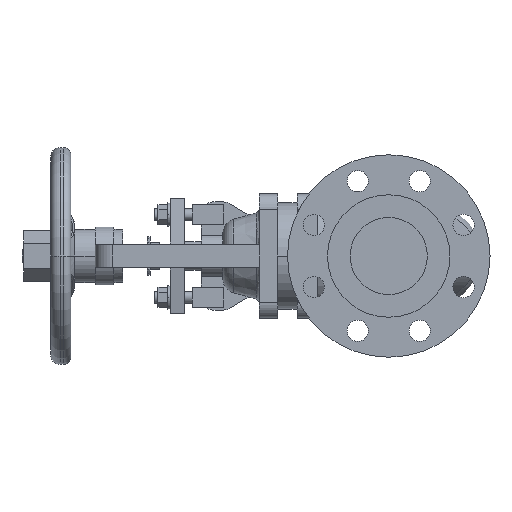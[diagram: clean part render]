
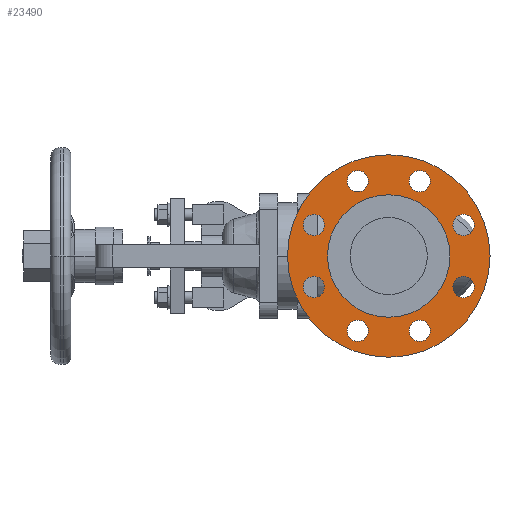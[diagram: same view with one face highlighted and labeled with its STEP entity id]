
A CAD part, left-side view. The second image highlights one B-rep face of the part: STEP entity #23490.
In plain terms, the highlighted planar face has unit normal (-1, 0, 0).
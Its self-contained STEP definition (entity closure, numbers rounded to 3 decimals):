
#4620=CARTESIAN_POINT('',(1.6,0.,105.));
#4630=VERTEX_POINT('',#4620);
#4790=CARTESIAN_POINT('',(1.6,0.,-105.));
#4800=VERTEX_POINT('',#4790);
#4830=CARTESIAN_POINT('',(1.6,0.,0.));
#4840=DIRECTION('',(1.,0.,0.));
#4850=DIRECTION('',(0.,0.,-1.));
#4860=AXIS2_PLACEMENT_3D('',#4830,#4840,#4850);
#4870=CIRCLE('',#4860,105.);
#4880=EDGE_CURVE('',#4630,#4800,#4870,.T.);
#5110=CARTESIAN_POINT('',(1.6,32.145,
-88.606));
#5120=VERTEX_POINT('',#5110);
#5280=CARTESIAN_POINT('',(1.6,32.145,
-66.606));
#5290=VERTEX_POINT('',#5280);
#5320=CARTESIAN_POINT('',(1.6,32.145,
-77.606));
#5330=DIRECTION('',(-1.,0.,0.));
#5340=DIRECTION('',(0.,0.,-1.));
#5350=AXIS2_PLACEMENT_3D('',#5320,#5330,#5340);
#5360=CIRCLE('',#5350,11.);
#5370=EDGE_CURVE('',#5120,#5290,#5360,.T.);
#5600=CARTESIAN_POINT('',(1.6,-32.145,
-88.606));
#5610=VERTEX_POINT('',#5600);
#5770=CARTESIAN_POINT('',(1.6,-32.145,
-66.606));
#5780=VERTEX_POINT('',#5770);
#5810=CARTESIAN_POINT('',(1.6,-32.145,
-77.606));
#5820=DIRECTION('',(-1.,0.,0.));
#5830=DIRECTION('',(0.,0.,-1.));
#5840=AXIS2_PLACEMENT_3D('',#5810,#5820,#5830);
#5850=CIRCLE('',#5840,11.);
#5860=EDGE_CURVE('',#5610,#5780,#5850,.T.);
#6090=CARTESIAN_POINT('',(1.6,77.606,
-43.145));
#6100=VERTEX_POINT('',#6090);
#6130=CARTESIAN_POINT('',(1.6,77.606,
-32.145));
#6140=DIRECTION('',(-1.,0.,0.));
#6150=DIRECTION('',(0.,0.,-1.));
#6160=AXIS2_PLACEMENT_3D('',#6130,#6140,#6150);
#6170=CIRCLE('',#6160,11.);
#6180=CARTESIAN_POINT('',(1.6,77.606,
-21.145));
#6190=VERTEX_POINT('',#6180);
#6200=EDGE_CURVE('',#6190,#6100,#6170,.T.);
#6580=CARTESIAN_POINT('',(1.6,-77.606,
-43.145));
#6590=VERTEX_POINT('',#6580);
#6750=CARTESIAN_POINT('',(1.6,-77.606,
-21.145));
#6760=VERTEX_POINT('',#6750);
#6790=CARTESIAN_POINT('',(1.6,-77.606,
-32.145));
#6800=DIRECTION('',(-1.,0.,0.));
#6810=DIRECTION('',(0.,0.,-1.));
#6820=AXIS2_PLACEMENT_3D('',#6790,#6800,#6810);
#6830=CIRCLE('',#6820,11.);
#6840=EDGE_CURVE('',#6590,#6760,#6830,.T.);
#7070=CARTESIAN_POINT('',(1.6,77.606,
21.145));
#7080=VERTEX_POINT('',#7070);
#7240=CARTESIAN_POINT('',(1.6,77.606,
43.145));
#7250=VERTEX_POINT('',#7240);
#7280=CARTESIAN_POINT('',(1.6,77.606,
32.145));
#7290=DIRECTION('',(-1.,0.,0.));
#7300=DIRECTION('',(0.,0.,-1.));
#7310=AXIS2_PLACEMENT_3D('',#7280,#7290,#7300);
#7320=CIRCLE('',#7310,11.);
#7330=EDGE_CURVE('',#7080,#7250,#7320,.T.);
#7560=CARTESIAN_POINT('',(1.6,-77.606,
21.145));
#7570=VERTEX_POINT('',#7560);
#7730=CARTESIAN_POINT('',(1.6,-77.606,
43.145));
#7740=VERTEX_POINT('',#7730);
#7770=CARTESIAN_POINT('',(1.6,-77.606,
32.145));
#7780=DIRECTION('',(-1.,0.,0.));
#7790=DIRECTION('',(0.,0.,-1.));
#7800=AXIS2_PLACEMENT_3D('',#7770,#7780,#7790);
#7810=CIRCLE('',#7800,11.);
#7820=EDGE_CURVE('',#7570,#7740,#7810,.T.);
#8050=CARTESIAN_POINT('',(1.6,-32.145,
66.606));
#8060=VERTEX_POINT('',#8050);
#8220=CARTESIAN_POINT('',(1.6,-32.145,
88.606));
#8230=VERTEX_POINT('',#8220);
#8260=CARTESIAN_POINT('',(1.6,-32.145,
77.606));
#8270=DIRECTION('',(-1.,0.,0.));
#8280=DIRECTION('',(0.,0.,-1.));
#8290=AXIS2_PLACEMENT_3D('',#8260,#8270,#8280);
#8300=CIRCLE('',#8290,11.);
#8310=EDGE_CURVE('',#8060,#8230,#8300,.T.);
#8540=CARTESIAN_POINT('',(1.6,32.145,
88.606));
#8550=VERTEX_POINT('',#8540);
#8580=CARTESIAN_POINT('',(1.6,32.145,
77.606));
#8590=DIRECTION('',(-1.,0.,0.));
#8600=DIRECTION('',(0.,0.,-1.));
#8610=AXIS2_PLACEMENT_3D('',#8580,#8590,#8600);
#8620=CIRCLE('',#8610,11.);
#8630=CARTESIAN_POINT('',(1.6,32.145,
66.606));
#8640=VERTEX_POINT('',#8630);
#8650=EDGE_CURVE('',#8640,#8550,#8620,.T.);
#9030=CARTESIAN_POINT('',(1.6,-63.5,0.));
#9040=VERTEX_POINT('',#9030);
#9070=CARTESIAN_POINT('',(1.6,0.,0.));
#9080=DIRECTION('',(-1.,0.,0.));
#9090=DIRECTION('',(0.,1.,0.));
#9100=AXIS2_PLACEMENT_3D('',#9070,#9080,#9090);
#9110=CIRCLE('',#9100,63.5);
#9120=CARTESIAN_POINT('',(1.6,63.5,0.));
#9130=VERTEX_POINT('',#9120);
#9140=EDGE_CURVE('',#9130,#9040,#9110,.T.);
#22940=CARTESIAN_POINT('',(1.6,84.25,0.)
);
#22950=DIRECTION('',(1.,0.,0.));
#22960=DIRECTION('',(0.,-1.,0.));
#22970=AXIS2_PLACEMENT_3D('',#22940,#22950,#22960);
#22980=PLANE('',#22970);
#22990=ORIENTED_EDGE('',*,*,#9140,.F.);
#23000=EDGE_CURVE('',#9040,#9130,#9110,.T.);
#23010=ORIENTED_EDGE('',*,*,#23000,.F.);
#23020=EDGE_LOOP('',(#23010,#22990));
#23030=FACE_BOUND('',#23020,.T.);
#23040=EDGE_CURVE('',#4800,#4630,#4870,.T.);
#23050=ORIENTED_EDGE('',*,*,#23040,.F.);
#23060=ORIENTED_EDGE('',*,*,#4880,.F.);
#23070=EDGE_LOOP('',(#23060,#23050));
#23080=FACE_OUTER_BOUND('',#23070,.T.);
#23090=EDGE_CURVE('',#5290,#5120,#5360,.T.);
#23100=ORIENTED_EDGE('',*,*,#23090,.F.);
#23110=ORIENTED_EDGE('',*,*,#5370,.F.);
#23120=EDGE_LOOP('',(#23110,#23100));
#23130=FACE_BOUND('',#23120,.T.);
#23140=EDGE_CURVE('',#5780,#5610,#5850,.T.);
#23150=ORIENTED_EDGE('',*,*,#23140,.F.);
#23160=ORIENTED_EDGE('',*,*,#5860,.F.);
#23170=EDGE_LOOP('',(#23160,#23150));
#23180=FACE_BOUND('',#23170,.T.);
#23190=ORIENTED_EDGE('',*,*,#6200,.F.);
#23200=EDGE_CURVE('',#6100,#6190,#6170,.T.);
#23210=ORIENTED_EDGE('',*,*,#23200,.F.);
#23220=EDGE_LOOP('',(#23210,#23190));
#23230=FACE_BOUND('',#23220,.T.);
#23240=EDGE_CURVE('',#6760,#6590,#6830,.T.);
#23250=ORIENTED_EDGE('',*,*,#23240,.F.);
#23260=ORIENTED_EDGE('',*,*,#6840,.F.);
#23270=EDGE_LOOP('',(#23260,#23250));
#23280=FACE_BOUND('',#23270,.T.);
#23290=EDGE_CURVE('',#7250,#7080,#7320,.T.);
#23300=ORIENTED_EDGE('',*,*,#23290,.F.);
#23310=ORIENTED_EDGE('',*,*,#7330,.F.);
#23320=EDGE_LOOP('',(#23310,#23300));
#23330=FACE_BOUND('',#23320,.T.);
#23340=EDGE_CURVE('',#7740,#7570,#7810,.T.);
#23350=ORIENTED_EDGE('',*,*,#23340,.F.);
#23360=ORIENTED_EDGE('',*,*,#7820,.F.);
#23370=EDGE_LOOP('',(#23360,#23350));
#23380=FACE_BOUND('',#23370,.T.);
#23390=EDGE_CURVE('',#8230,#8060,#8300,.T.);
#23400=ORIENTED_EDGE('',*,*,#23390,.F.);
#23410=ORIENTED_EDGE('',*,*,#8310,.F.);
#23420=EDGE_LOOP('',(#23410,#23400));
#23430=FACE_BOUND('',#23420,.T.);
#23440=ORIENTED_EDGE('',*,*,#8650,.F.);
#23450=EDGE_CURVE('',#8550,#8640,#8620,.T.);
#23460=ORIENTED_EDGE('',*,*,#23450,.F.);
#23470=EDGE_LOOP('',(#23460,#23440));
#23480=FACE_BOUND('',#23470,.T.);
#23490=ADVANCED_FACE('',(#23030,#23080,#23130,#23180,#23230,#23280,
#23330,#23380,#23430,#23480),#22980,.F.);
